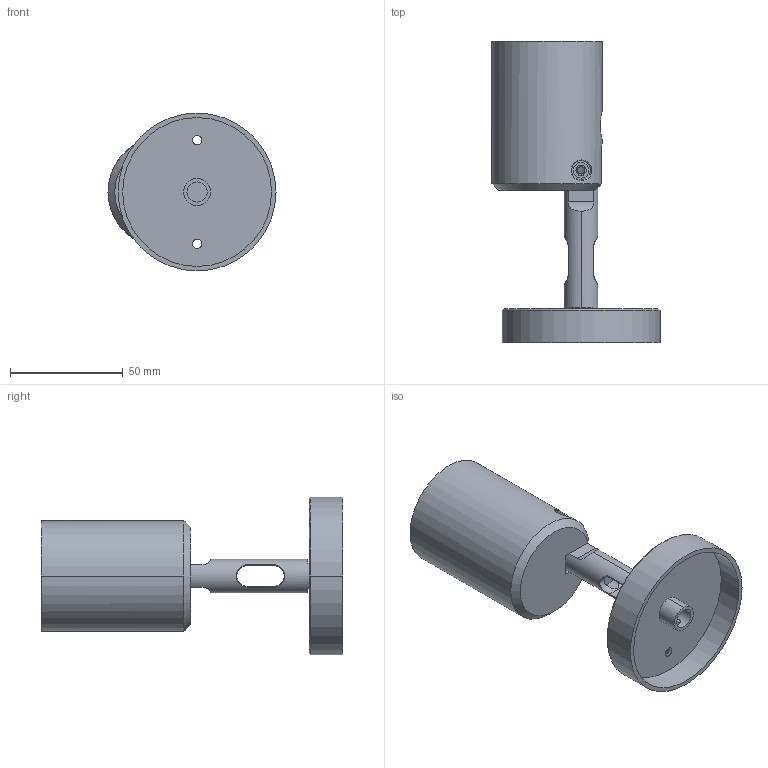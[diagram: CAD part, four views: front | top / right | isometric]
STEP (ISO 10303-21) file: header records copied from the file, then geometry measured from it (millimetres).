
FILE_DESCRIPTION((''),'2;1');
FILE_NAME('WALL_SW0001','2025-05-22T17:19:50',('elena.baldelli'),(''),'CREO PARAMETRIC BY PTC INC, 2020354','CREO PARAMETRIC BY PTC INC, 2020354','');
FILE_SCHEMA(('CONFIG_CONTROL_DESIGN'));
Length unit declared in the file: millimetre
Products named in the file (1): WALL_SW0001
Bounding box: 74.5 x 133.8 x 70 mm (x, y, z)
Surface area: 40159.2 mm2 (no closed solid volume)
Topology: 0 solids, 19 shells, 92 faces, 416 edges, 340 vertices
Faces by surface type: plane 38, cylinder 36, cone 9, bspline 7, revolution 2
Entity records: 6966 total; most frequent: CARTESIAN_POINT 3612, DIRECTION 675, ORIENTED_EDGE 579, EDGE_CURVE 416, VERTEX_POINT 340, AXIS2_PLACEMENT_3D 226, VECTOR 221, LINE 221
